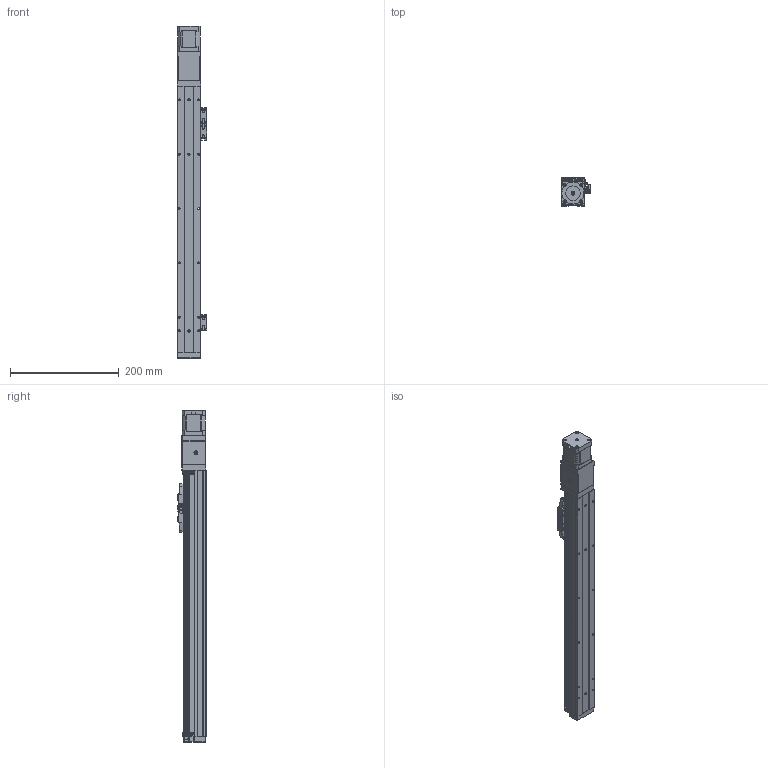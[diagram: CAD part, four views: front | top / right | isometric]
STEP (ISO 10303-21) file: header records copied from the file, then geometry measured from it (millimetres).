
FILE_DESCRIPTION (( 'STEP AP203' ), '1' );
FILE_NAME ('GTH4-350-BC-B42-C4.step', '2023-02-14T00:14:58', ( '微软用户' ), ( '微软中国' ), 'SwSTEP 2.0', 'SolidWorks 2020', '' );
FILE_SCHEMA (( 'CONFIG_CONTROL_DESIGN' ));
Length unit declared in the file: millimetre
Products named in the file (19): BTH50-028; BTH40-004; BTH50-023; BTH40-013; BTH40-001-50_BTH40-001-350; BTH50-024; GBT 70.3-M3℅6; BTH40-003; GBT 70.1-M3℅6; BTH40-017; BTH40-006; GBT96.1-2002 3×0.8; BTH40-005-1; BTH-M3X5X6; BTH40-022; 42CM06; GBT70.1-2000 M3×16; GBT 70.1-M2.5×6; GTH4-350-BC-B42-C4
Assembly tree (49 placements, depth 2):
  GTH4-350-BC-B42-C4
    BTH40-001-50_BTH40-001-350
    BTH40-003
    BTH40-006
    BTH-M3X5X6  x10
    GBT70.1-2000 M3×16  x4
    BTH50-028  x2
    BTH50-023  x3
    BTH50-024  x3
    GBT 70.1-M3℅6  x6
    GBT96.1-2002 3×0.8  x6
    BTH40-022
    GBT 70.1-M2.5×6  x2
    BTH40-004
    BTH40-013
    GBT 70.3-M3℅6  x4
    BTH40-017
    BTH40-005-1
    42CM06
Bounding box: 55.2 x 52 x 611 mm (x, y, z)
Volume: 938572.8 mm3; surface area: 208486.7 mm2
Topology: 58 solids, 58 shells, 3294 faces, 7694 edges, 4620 vertices
Faces by surface type: cone 1475, plane 1112, cylinder 543, torus 128, bspline 24, sphere 12
Entity records: 75534 total; most frequent: DIRECTION 13465, CARTESIAN_POINT 13205, ORIENTED_EDGE 11850, EDGE_CURVE 5925, AXIS2_PLACEMENT_3D 5107, VERTEX_POINT 3551, LINE 3251, VECTOR 3251
